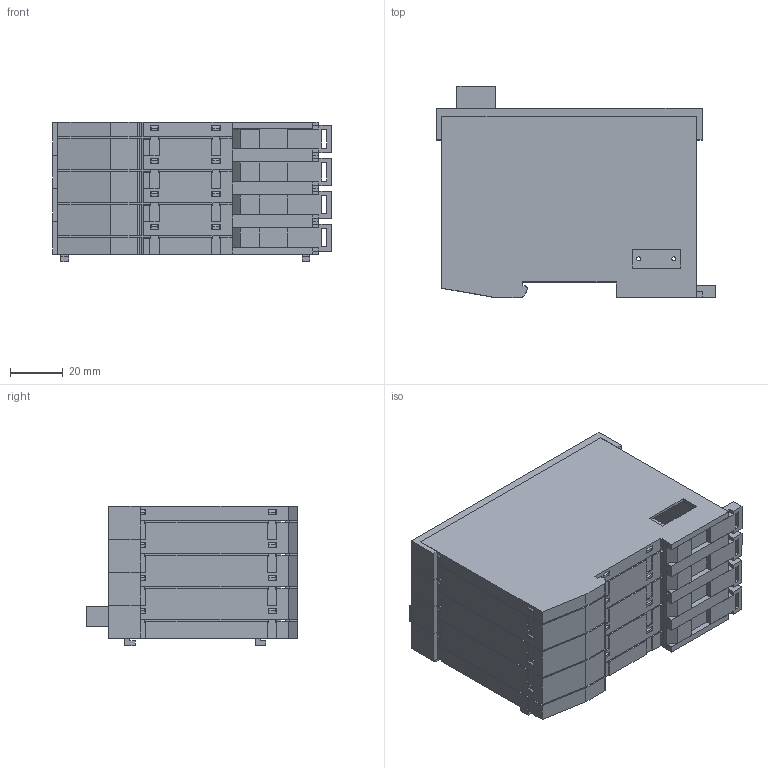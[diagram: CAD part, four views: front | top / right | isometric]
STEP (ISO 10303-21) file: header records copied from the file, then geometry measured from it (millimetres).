
FILE_DESCRIPTION (( 'STEP AP214' ), '1' );
FILE_NAME ('SEC171 (20-023-171) Export20250711.STEP', '2025-07-11T12:40:11', ( '' ), ( '' ), 'SwSTEP 2.0', 'SolidWorks 2024', '' );
FILE_SCHEMA (( 'AUTOMOTIVE_DESIGN' ));
Length unit declared in the file: millimetre
Products named in the file (22): S-Dias Zwischenstück Doppelmodul; S-Dias Doppelmodul Abdeckung Relais Support_SV141; S-Dias Schale rechts_f Suport; APA1606 SMD LED 1,6x0,6 Gelb; Rasthaken S-Dias f Support; EXGNDPAD_SDIAS_EXGNDPAD_SDIAS; UET_10100MBIT_PEH1102_UET_10100MBIT_PEHX1188_ED; Dummy_4110262172 4pol Stecker 1.5-6-st-3.5; APA1606 SMD LED 1,6x0,6 grün; Dummy_4080225208 RJ45 Ethernet Buchse90 SMD; S-Dias Doppelmodul Abdeckung Relais Support_SEC171; S-Dias Schale links_f Suport; Ferrit 1806 h1,8; SMDREF_1_2_SMDREF_1_2; Capacitor 0603 h0,94; 4110251205 4pol.Minicombicon-Grundgehäuse RM3,5 1937512; SEC171 (20-023-171) Export20250711; Schieber_f Suport; LP_SEC171; Resistor 0402 h0,4; BOHRNDK2_0MM_BOHRNDK2_0MM; 162800
Assembly tree (35 placements, depth 3):
  EXGNDPAD_SDIAS_EXGNDPAD_SDIAS
  UET_10100MBIT_PEH1102_UET_10100MBIT_PEHX1188_ED
  Ferrit 1806 h1,8
  SMDREF_1_2_SMDREF_1_2
  Capacitor 0603 h0,94
Bounding box: 105.88 x 80.16 x 52.8 mm (x, y, z)
Volume: 77168.3 mm3; surface area: 104540.7 mm2
Topology: 28 solids, 69 shells, 4608 faces, 11831 edges, 7597 vertices
Faces by surface type: plane 3297, bspline 920, cylinder 309, cone 66, torus 16
Full cylindrical faces by diameter (mm): 0.2 x1, 0.3 x97, 0.5 x5, 0.523 x3, 1.2 x4, 1.25 x4, 1.3 x4, 1.6 x5, 2.705 x4, 2.8 x2, 3.129 x16, 3.8 x2
Entity records: 75266 total; most frequent: CARTESIAN_POINT 23781, ORIENTED_EDGE 9182, DIRECTION 6968, EDGE_CURVE 4598, VERTEX_POINT 3047, LINE 2852, VECTOR 2852, EDGE_LOOP 2275
